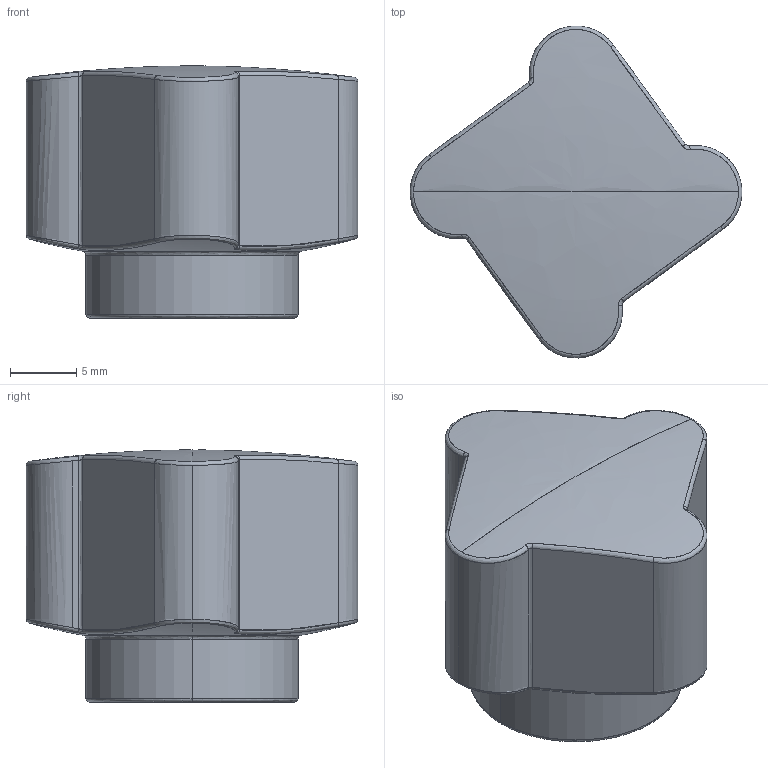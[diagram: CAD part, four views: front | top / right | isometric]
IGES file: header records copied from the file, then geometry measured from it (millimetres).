
Start section: SolidWorks IGES file using analytic representation for surfaces
Global section: file name: C:\Users\Marc\Documents\2 ENGINYERIA\Catalogo 3D\IGS STEP DXF\1120 25 301.IGS; native system: SolidWorks 2010; preprocessor: SolidWorks 2010; author: Marc; date: 101126.162608; units: millimetre
Bounding box: 25 x 25 x 19 mm (x, y, z)
Surface area: 3421.9 mm2 (no closed solid volume)
Topology: 0 solids, 0 shells, 63 faces, 675 edges, 672 vertices
Faces by surface type: bspline 36, revolution 27
